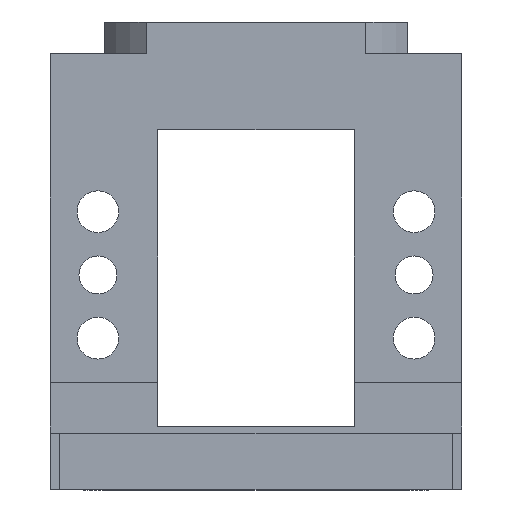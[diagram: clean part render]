
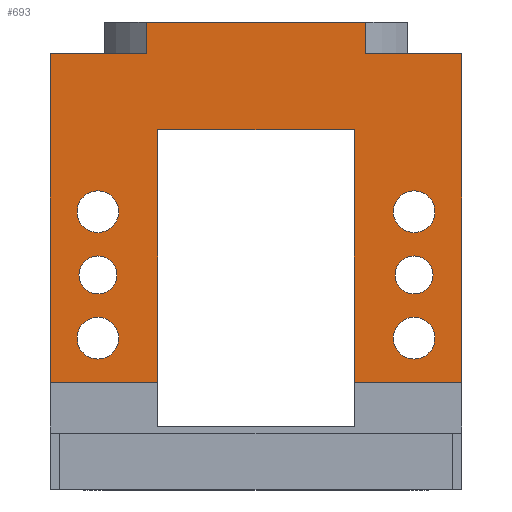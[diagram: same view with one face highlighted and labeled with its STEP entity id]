
A CAD part, front view. The second image highlights one B-rep face of the part: STEP entity #693.
In plain terms, the highlighted planar face has unit normal (0, -1, 0).
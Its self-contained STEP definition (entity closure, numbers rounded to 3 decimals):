
#693=ADVANCED_FACE('',(#1088,#1089,#1090,#1091,#1092,#1093,#1094),#844,
 .F.);
#844=PLANE('',#3651);
#948=CIRCLE('',#3551,3.);
#950=CIRCLE('',#3554,3.);
#979=CIRCLE('',#3606,3.3);
#982=CIRCLE('',#3611,3.3);
#986=CIRCLE('',#3617,3.3);
#990=CIRCLE('',#3623,3.3);
#1088=FACE_BOUND('',#1225,.T.);
#1089=FACE_BOUND('',#1226,.T.);
#1090=FACE_BOUND('',#1227,.T.);
#1091=FACE_BOUND('',#1228,.T.);
#1092=FACE_BOUND('',#1229,.T.);
#1093=FACE_BOUND('',#1230,.T.);
#1094=FACE_BOUND('',#1231,.T.);
#1225=EDGE_LOOP('',(#1546));
#1226=EDGE_LOOP('',(#1547));
#1227=EDGE_LOOP('',(#1548));
#1228=EDGE_LOOP('',(#1549));
#1229=EDGE_LOOP('',(#1550));
#1230=EDGE_LOOP('',(#1551));
#1231=EDGE_LOOP('',(#1552,#1553,#1554,#1555,#1556,#1557,#1558,#1559,#1560,
#1561,#1562,#1563));
#1546=ORIENTED_EDGE('',*,*,#2655,.F.);
#1547=ORIENTED_EDGE('',*,*,#2657,.F.);
#1548=ORIENTED_EDGE('',*,*,#2697,.F.);
#1549=ORIENTED_EDGE('',*,*,#2693,.F.);
#1550=ORIENTED_EDGE('',*,*,#2686,.F.);
#1551=ORIENTED_EDGE('',*,*,#2689,.F.);
#1552=ORIENTED_EDGE('',*,*,#2735,.F.);
#1553=ORIENTED_EDGE('',*,*,#2744,.F.);
#1554=ORIENTED_EDGE('',*,*,#2745,.T.);
#1555=ORIENTED_EDGE('',*,*,#2746,.T.);
#1556=ORIENTED_EDGE('',*,*,#2747,.F.);
#1557=ORIENTED_EDGE('',*,*,#2717,.F.);
#1558=ORIENTED_EDGE('',*,*,#2748,.T.);
#1559=ORIENTED_EDGE('',*,*,#2749,.T.);
#1560=ORIENTED_EDGE('',*,*,#2750,.F.);
#1561=ORIENTED_EDGE('',*,*,#2710,.T.);
#1562=ORIENTED_EDGE('',*,*,#2737,.F.);
#1563=ORIENTED_EDGE('',*,*,#2728,.F.);
#2331=VERTEX_POINT('',#4461);
#2333=VERTEX_POINT('',#4466);
#2366=VERTEX_POINT('',#4551);
#2369=VERTEX_POINT('',#4559);
#2373=VERTEX_POINT('',#4569);
#2377=VERTEX_POINT('',#4579);
#2389=VERTEX_POINT('',#4607);
#2390=VERTEX_POINT('',#4609);
#2395=VERTEX_POINT('',#4621);
#2396=VERTEX_POINT('',#4623);
#2404=VERTEX_POINT('',#4649);
#2405=VERTEX_POINT('',#4651);
#2409=VERTEX_POINT('',#4662);
#2413=VERTEX_POINT('',#4683);
#2414=VERTEX_POINT('',#4685);
#2415=VERTEX_POINT('',#4687);
#2416=VERTEX_POINT('',#4690);
#2417=VERTEX_POINT('',#4692);
#2655=EDGE_CURVE('',#2331,#2331,#948,.T.);
#2657=EDGE_CURVE('',#2333,#2333,#950,.T.);
#2686=EDGE_CURVE('',#2366,#2366,#979,.T.);
#2689=EDGE_CURVE('',#2369,#2369,#982,.T.);
#2693=EDGE_CURVE('',#2373,#2373,#986,.T.);
#2697=EDGE_CURVE('',#2377,#2377,#990,.T.);
#2710=EDGE_CURVE('',#2390,#2389,#3111,.T.);
#2717=EDGE_CURVE('',#2395,#2396,#3117,.T.);
#2728=EDGE_CURVE('',#2404,#2405,#3124,.T.);
#2735=EDGE_CURVE('',#2409,#2404,#3127,.T.);
#2737=EDGE_CURVE('',#2405,#2389,#3129,.T.);
#2744=EDGE_CURVE('',#2413,#2409,#3134,.T.);
#2745=EDGE_CURVE('',#2413,#2414,#3135,.T.);
#2746=EDGE_CURVE('',#2414,#2415,#3136,.T.);
#2747=EDGE_CURVE('',#2396,#2415,#3137,.T.);
#2748=EDGE_CURVE('',#2395,#2416,#3138,.T.);
#2749=EDGE_CURVE('',#2416,#2417,#3139,.T.);
#2750=EDGE_CURVE('',#2390,#2417,#3140,.T.);
#3111=LINE('',#4608,#3314);
#3117=LINE('',#4622,#3320);
#3124=LINE('',#4650,#3327);
#3127=LINE('',#4663,#3330);
#3129=LINE('',#4666,#3332);
#3134=LINE('',#4682,#3337);
#3135=LINE('',#4684,#3338);
#3136=LINE('',#4686,#3339);
#3137=LINE('',#4688,#3340);
#3138=LINE('',#4689,#3341);
#3139=LINE('',#4691,#3342);
#3140=LINE('',#4693,#3343);
#3314=VECTOR('',#3953,1.);
#3320=VECTOR('',#3963,1.);
#3327=VECTOR('',#3978,1.);
#3330=VECTOR('',#3991,1.);
#3332=VECTOR('',#3995,1.);
#3337=VECTOR('',#4008,1.);
#3338=VECTOR('',#4009,1.);
#3339=VECTOR('',#4010,1.);
#3340=VECTOR('',#4011,1.);
#3341=VECTOR('',#4012,1.);
#3342=VECTOR('',#4013,1.);
#3343=VECTOR('',#4014,1.);
#3551=AXIS2_PLACEMENT_3D('',#4460,#3780,#3781);
#3554=AXIS2_PLACEMENT_3D('',#4465,#3786,#3787);
#3606=AXIS2_PLACEMENT_3D('',#4550,#3890,#3891);
#3611=AXIS2_PLACEMENT_3D('',#4558,#3900,#3901);
#3617=AXIS2_PLACEMENT_3D('',#4568,#3912,#3913);
#3623=AXIS2_PLACEMENT_3D('',#4578,#3924,#3925);
#3651=AXIS2_PLACEMENT_3D('',#4694,#4015,#4016);
#3780=DIRECTION('',(0.,-1.,0.));
#3781=DIRECTION('',(0.,0.,-1.));
#3786=DIRECTION('',(0.,-1.,0.));
#3787=DIRECTION('',(0.,0.,-1.));
#3890=DIRECTION('',(0.,-1.,0.));
#3891=DIRECTION('',(-1.,0.,0.));
#3900=DIRECTION('',(0.,-1.,0.));
#3901=DIRECTION('',(-1.,0.,0.));
#3912=DIRECTION('',(0.,-1.,0.));
#3913=DIRECTION('',(-1.,0.,0.));
#3924=DIRECTION('',(0.,-1.,0.));
#3925=DIRECTION('',(-1.,0.,0.));
#3953=DIRECTION('',(-1.,0.,0.));
#3963=DIRECTION('',(-1.,0.,0.));
#3978=DIRECTION('',(1.,0.,0.));
#3991=DIRECTION('',(0.,0.,1.));
#3995=DIRECTION('',(0.,0.,-1.));
#4008=DIRECTION('',(1.,0.,0.));
#4009=DIRECTION('',(0.,0.,-1.));
#4010=DIRECTION('',(1.,0.,0.));
#4011=DIRECTION('',(0.,0.,-1.));
#4012=DIRECTION('',(0.,0.,-1.));
#4013=DIRECTION('',(1.,0.,0.));
#4014=DIRECTION('',(0.,0.,-1.));
#4015=DIRECTION('',(0.,1.,0.));
#4016=DIRECTION('',(1.,0.,0.));
#4460=CARTESIAN_POINT('',(-25.,-22.,29.));
#4461=CARTESIAN_POINT('',(-25.,-22.,26.));
#4465=CARTESIAN_POINT('',(25.,-22.,29.));
#4466=CARTESIAN_POINT('',(25.,-22.,26.));
#4550=CARTESIAN_POINT('',(25.,-22.,39.));
#4551=CARTESIAN_POINT('',(21.7,-22.,39.));
#4558=CARTESIAN_POINT('',(25.,-22.,19.));
#4559=CARTESIAN_POINT('',(21.7,-22.,19.));
#4568=CARTESIAN_POINT('',(-25.,-22.,19.));
#4569=CARTESIAN_POINT('',(-28.3,-22.,19.));
#4578=CARTESIAN_POINT('',(-25.,-22.,39.));
#4579=CARTESIAN_POINT('',(-28.3,-22.,39.));
#4607=CARTESIAN_POINT('',(17.321,-22.,64.));
#4608=CARTESIAN_POINT('',(32.5,-22.,64.));
#4609=CARTESIAN_POINT('',(32.5,-22.,64.));
#4621=CARTESIAN_POINT('',(15.5,-22.,52.));
#4622=CARTESIAN_POINT('',(-31.,-22.,52.));
#4623=CARTESIAN_POINT('',(-15.5,-22.,52.));
#4649=CARTESIAN_POINT('',(-17.321,-22.,69.));
#4650=CARTESIAN_POINT('',(26.,-22.,69.));
#4651=CARTESIAN_POINT('',(17.321,-22.,69.));
#4662=CARTESIAN_POINT('',(-17.321,-22.,64.));
#4663=CARTESIAN_POINT('',(-17.321,-22.,-25.344));
#4666=CARTESIAN_POINT('',(17.321,-22.,-25.344));
#4682=CARTESIAN_POINT('',(-32.5,-22.,64.));
#4683=CARTESIAN_POINT('',(-32.5,-22.,64.));
#4684=CARTESIAN_POINT('',(-32.5,-22.,64.));
#4685=CARTESIAN_POINT('',(-32.5,-22.,12.));
#4686=CARTESIAN_POINT('',(-32.5,-22.,12.));
#4687=CARTESIAN_POINT('',(-15.5,-22.,12.));
#4688=CARTESIAN_POINT('',(-15.5,-22.,59.));
#4689=CARTESIAN_POINT('',(15.5,-22.,59.));
#4690=CARTESIAN_POINT('',(15.5,-22.,12.));
#4691=CARTESIAN_POINT('',(-32.5,-22.,12.));
#4692=CARTESIAN_POINT('',(32.5,-22.,12.));
#4693=CARTESIAN_POINT('',(32.5,-22.,64.));
#4694=CARTESIAN_POINT('',(32.5,-22.,64.));
